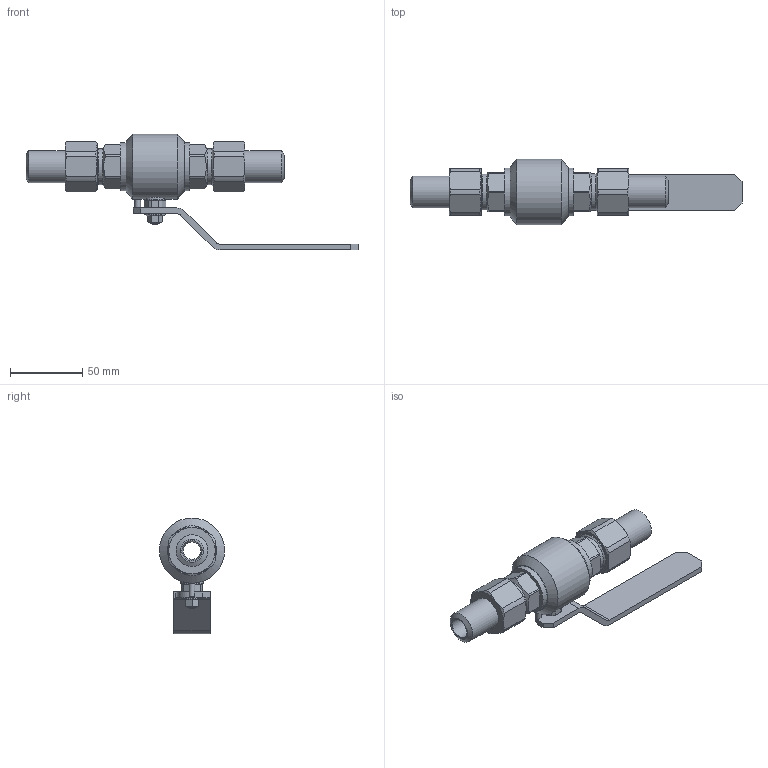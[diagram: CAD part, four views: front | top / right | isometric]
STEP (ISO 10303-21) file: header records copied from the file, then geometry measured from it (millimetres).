
FILE_DESCRIPTION(('STEP AP203'), '1');
FILE_NAME('ZARD 015.100.30.P.stp', '2013-12-05T11:03:01', ('1'), ('1'), 'ASCON STEP Converter 1.3', 'Kompas 3D', '');
FILE_SCHEMA(('CONFIG_CONTROL_DESIGN','SUPPORT_RESOURCE_SCHEMA'));
Length unit declared in the file: millimetre
Products named in the file (1): 122
Bounding box: 229 x 45 x 80 mm (x, y, z)
Volume: 129442.4 mm3; surface area: 44645.2 mm2
Topology: 1 solids, 5 shells, 251 faces, 594 edges, 366 vertices
Faces by surface type: plane 116, cylinder 70, cone 60, sphere 4, bspline 1
Full cylindrical faces by diameter (mm): 4 x2, 6 x2, 8.673 x1, 9 x1, 10 x1, 10.1 x1, 12 x2, 14 x2, 14.2 x1, 15.8 x1, 16 x3, 20 x2, 22 x2, 24.8 x2, 25 x2, 25.376 x2, 25.4 x1, 27 x2, 33 x2, 45 x1
Entity records: 9656 total; most frequent: CARTESIAN_POINT 3742, DIRECTION 1255, ORIENTED_EDGE 1186, EDGE_CURVE 593, AXIS2_PLACEMENT_3D 496, VERTEX_POINT 366, EDGE_LOOP 283, LINE 263
